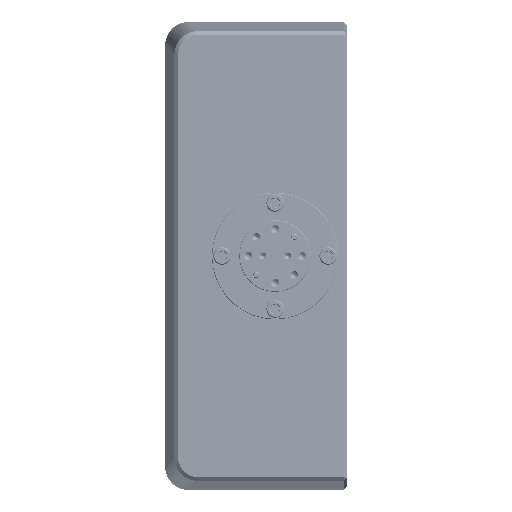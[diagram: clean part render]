
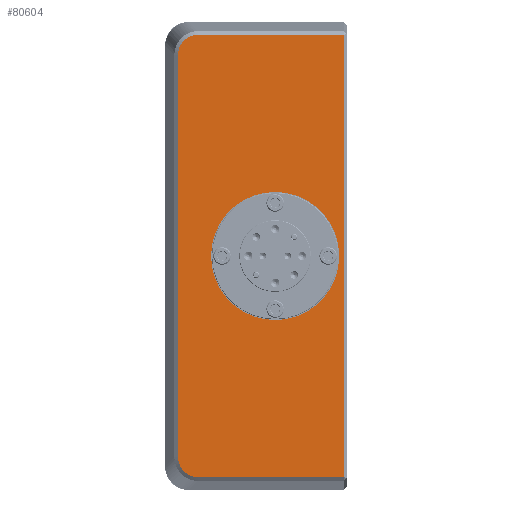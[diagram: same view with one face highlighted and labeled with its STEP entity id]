
A CAD part, left-side view. The second image highlights one B-rep face of the part: STEP entity #80604.
In plain terms, the highlighted planar face has unit normal (-1, 0, 0).
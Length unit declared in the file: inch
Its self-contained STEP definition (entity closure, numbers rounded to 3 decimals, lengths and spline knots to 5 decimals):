
#144 = CARTESIAN_POINT ( 'NONE',  ( -2.75, 4.83369, 2.2083 ) ) ;
#2162 = CIRCLE ( 'NONE', #88077, 0.67 ) ;
#5728 = VERTEX_POINT ( 'NONE', #17902 ) ;
#6769 = ORIENTED_EDGE ( 'NONE', *, *, #44424, .T. ) ;
#7069 = EDGE_LOOP ( 'NONE', ( #109122, #74257 ) ) ;
#9020 = CARTESIAN_POINT ( 'NONE',  ( -2.75, 4.04607, -2.31232 ) ) ;
#9619 = CARTESIAN_POINT ( 'NONE',  ( -2.75, 4.86115, 2.1034 ) ) ;
#10498 = CIRCLE ( 'NONE', #24885, 0.67 ) ;
#10544 = CARTESIAN_POINT ( 'NONE',  ( -2.75, 4.65223, -2.31232 ) ) ;
#11663 = CARTESIAN_POINT ( 'NONE',  ( -2.75, 4.67966, -2.31099 ) ) ;
#12776 = CARTESIAN_POINT ( 'NONE',  ( -2.75, 4.86115, -2.1034 ) ) ;
#13471 = CARTESIAN_POINT ( 'NONE',  ( -2.75, 3.84607, 0. ) ) ;
#15875 = CARTESIAN_POINT ( 'NONE',  ( -2.75, 4.81844, 2.23117 ) ) ;
#16867 = EDGE_CURVE ( 'NONE', #5728, #171015, #111135, .T. ) ;
#17902 = CARTESIAN_POINT ( 'NONE',  ( -2.75, 4.65223, -2.31232 ) ) ;
#24885 = AXIS2_PLACEMENT_3D ( 'NONE', #13471, #84218, #66259 ) ;
#29572 = DIRECTION ( 'NONE',  ( 1., 0., 0. ) ) ;
#31334 = CARTESIAN_POINT ( 'NONE',  ( -2.75, 3.12607, 0. ) ) ;
#33871 = CARTESIAN_POINT ( 'NONE',  ( -2.75, 4.04607, 2.31232 ) ) ;
#34937 = CARTESIAN_POINT ( 'NONE',  ( -2.75, 4.86115, 2.11717 ) ) ;
#35193 = DIRECTION ( 'NONE',  ( 0., 0., 1. ) ) ;
#36299 = DIRECTION ( 'NONE',  ( -1., 0., 0. ) ) ;
#37166 = DIRECTION ( 'NONE',  ( 0., 1., 0. ) ) ;
#37976 = VERTEX_POINT ( 'NONE', #9619 ) ;
#42719 = EDGE_CURVE ( 'NONE', #171015, #131053, #133450, .T. ) ;
#44424 = EDGE_CURVE ( 'NONE', #131053, #130940, #171881, .T. ) ;
#45378 = CARTESIAN_POINT ( 'NONE',  ( -2.75, 4.79057, -2.26097 ) ) ;
#51357 = ORIENTED_EDGE ( 'NONE', *, *, #98663, .T. ) ;
#61878 = VECTOR ( 'NONE', #99789, 39.37008 ) ;
#62163 = FACE_OUTER_BOUND ( 'NONE', #221961, .T. ) ;
#66259 = DIRECTION ( 'NONE',  ( 0., 0., 1. ) ) ;
#68644 = CARTESIAN_POINT ( 'NONE',  ( -2.75, 4.85052, 2.17101 ) ) ;
#72197 = CARTESIAN_POINT ( 'NONE',  ( -2.75, 3.84607, -0.67 ) ) ;
#74132 = CARTESIAN_POINT ( 'NONE',  ( -2.75, 3.12607, 2.31232 ) ) ;
#74257 = ORIENTED_EDGE ( 'NONE', *, *, #140248, .F. ) ;
#76623 = VECTOR ( 'NONE', #37166, 39.37008 ) ;
#80604 = ADVANCED_FACE ( 'NONE', ( #197969, #62163 ), #167588, .F. ) ;
#81288 = CARTESIAN_POINT ( 'NONE',  ( -2.75, 4.75712, -2.28486 ) ) ;
#83281 = CARTESIAN_POINT ( 'NONE',  ( -2.75, 4.80979, 2.24174 ) ) ;
#84218 = DIRECTION ( 'NONE',  ( -1., 0., 0. ) ) ;
#84397 = CARTESIAN_POINT ( 'NONE',  ( -2.75, 4.78, 2.26962 ) ) ;
#86369 = ORIENTED_EDGE ( 'NONE', *, *, #16867, .T. ) ;
#88077 = AXIS2_PLACEMENT_3D ( 'NONE', #118275, #36299, #35193 ) ;
#89852 = EDGE_CURVE ( 'NONE', #37976, #207227, #183697, .T. ) ;
#89879 = CARTESIAN_POINT ( 'NONE',  ( -2.75, 3.12607, -2.31232 ) ) ;
#92454 = ORIENTED_EDGE ( 'NONE', *, *, #42719, .T. ) ;
#95464 = DIRECTION ( 'NONE',  ( 0., -1., 0. ) ) ;
#95868 = CARTESIAN_POINT ( 'NONE',  ( -2.75, 4.85446, -2.1579 ) ) ;
#96962 = CARTESIAN_POINT ( 'NONE',  ( -2.75, 4.86115, -2.11713 ) ) ;
#98663 = EDGE_CURVE ( 'NONE', #207227, #5728, #141367, .T. ) ;
#99789 = DIRECTION ( 'NONE',  ( 0., 0., 1. ) ) ;
#101186 = CARTESIAN_POINT ( 'NONE',  ( -2.75, 4.67964, 2.31098 ) ) ;
#103393 = CARTESIAN_POINT ( 'NONE',  ( -2.75, 4.86115, 2.1034 ) ) ;
#109122 = ORIENTED_EDGE ( 'NONE', *, *, #218152, .F. ) ;
#111135 = LINE ( 'NONE', #9020, #130205 ) ;
#113784 = CARTESIAN_POINT ( 'NONE',  ( -2.75, 4.78, -2.26962 ) ) ;
#115753 = CARTESIAN_POINT ( 'NONE',  ( -2.75, 4.65223, 2.31232 ) ) ;
#116005 = CARTESIAN_POINT ( 'NONE',  ( -2.75, 4.71984, -2.30169 ) ) ;
#116894 = CARTESIAN_POINT ( 'NONE',  ( -2.75, 4.71985, 2.30168 ) ) ;
#118275 = CARTESIAN_POINT ( 'NONE',  ( -2.75, 3.84607, 0. ) ) ;
#120233 = CARTESIAN_POINT ( 'NONE',  ( -2.75, 4.85446, 2.15793 ) ) ;
#125655 = AXIS2_PLACEMENT_3D ( 'NONE', #215899, #29572, #182213 ) ;
#128530 = VERTEX_POINT ( 'NONE', #191231 ) ;
#130205 = VECTOR ( 'NONE', #95464, 39.37008 ) ;
#130708 = ORIENTED_EDGE ( 'NONE', *, *, #205791, .T. ) ;
#130940 = VERTEX_POINT ( 'NONE', #115753 ) ;
#130982 = CARTESIAN_POINT ( 'NONE',  ( -2.75, 4.86115, 0. ) ) ;
#131053 = VERTEX_POINT ( 'NONE', #74132 ) ;
#132829 = CARTESIAN_POINT ( 'NONE',  ( -2.75, 4.84013, -2.19623 ) ) ;
#133450 = LINE ( 'NONE', #31334, #61878 ) ;
#140248 = EDGE_CURVE ( 'NONE', #143157, #128530, #10498, .T. ) ;
#141367 = B_SPLINE_CURVE_WITH_KNOTS ( 'NONE', 3,
 ( #12776, #96962, #184493, #95868, #183372, #132829, #206604, #199154, #185592, #45378, #113784, #81288, #201333, #116005, #182264, #11663, #218156, #10544 ),
 .UNSPECIFIED., .F., .F.,
 ( 4, 2, 2, 2, 2, 2, 2, 2, 4 ),
 ( 0., 0.125, 0.25, 0.375, 0.5, 0.625, 0.75, 0.875, 1. ),
 .UNSPECIFIED. ) ;
#143157 = VERTEX_POINT ( 'NONE', #72197 ) ;
#147107 = VECTOR ( 'NONE', #184821, 39.37008 ) ;
#153926 = CARTESIAN_POINT ( 'NONE',  ( -2.75, 4.65223, 2.31232 ) ) ;
#161604 = ORIENTED_EDGE ( 'NONE', *, *, #89852, .T. ) ;
#167588 = PLANE ( 'NONE',  #125655 ) ;
#168531 = CARTESIAN_POINT ( 'NONE',  ( -2.75, 4.79056, 2.26096 ) ) ;
#169638 = CARTESIAN_POINT ( 'NONE',  ( -2.75, 4.74506, 2.2913 ) ) ;
#171015 = VERTEX_POINT ( 'NONE', #89879 ) ;
#171843 = CARTESIAN_POINT ( 'NONE',  ( -2.75, 4.84012, 2.19624 ) ) ;
#171881 = LINE ( 'NONE', #33871, #76623 ) ;
#178800 = B_SPLINE_CURVE_WITH_KNOTS ( 'NONE', 3,
 ( #153926, #221270, #101186, #219045, #116894, #169638, #202238, #84397, #168531, #83281, #15875, #144, #171843, #68644, #120233, #205556, #34937, #103393 ),
 .UNSPECIFIED., .F., .F.,
 ( 4, 2, 2, 2, 2, 2, 2, 2, 4 ),
 ( 0., 0.125, 0.25, 0.375, 0.5, 0.625, 0.75, 0.875, 1. ),
 .UNSPECIFIED. ) ;
#182213 = DIRECTION ( 'NONE',  ( 0., 1., 0. ) ) ;
#182264 = CARTESIAN_POINT ( 'NONE',  ( -2.75, 4.70676, -2.30563 ) ) ;
#183372 = CARTESIAN_POINT ( 'NONE',  ( -2.75, 4.85051, -2.17102 ) ) ;
#183697 = LINE ( 'NONE', #130982, #147107 ) ;
#184493 = CARTESIAN_POINT ( 'NONE',  ( -2.75, 4.8598, -2.13082 ) ) ;
#184821 = DIRECTION ( 'NONE',  ( 0., 0., -1. ) ) ;
#185592 = CARTESIAN_POINT ( 'NONE',  ( -2.75, 4.80979, -2.24174 ) ) ;
#191231 = CARTESIAN_POINT ( 'NONE',  ( -2.75, 3.84607, 0.67 ) ) ;
#197969 = FACE_BOUND ( 'NONE', #7069, .T. ) ;
#199154 = CARTESIAN_POINT ( 'NONE',  ( -2.75, 4.81844, -2.23117 ) ) ;
#201333 = CARTESIAN_POINT ( 'NONE',  ( -2.75, 4.74507, -2.29129 ) ) ;
#202238 = CARTESIAN_POINT ( 'NONE',  ( -2.75, 4.75712, 2.28486 ) ) ;
#205556 = CARTESIAN_POINT ( 'NONE',  ( -2.75, 4.85981, 2.13083 ) ) ;
#205791 = EDGE_CURVE ( 'NONE', #130940, #37976, #178800, .T. ) ;
#206604 = CARTESIAN_POINT ( 'NONE',  ( -2.75, 4.83369, -2.20829 ) ) ;
#207227 = VERTEX_POINT ( 'NONE', #215512 ) ;
#215512 = CARTESIAN_POINT ( 'NONE',  ( -2.75, 4.86115, -2.1034 ) ) ;
#215899 = CARTESIAN_POINT ( 'NONE',  ( -2.75, 4.04607, 0. ) ) ;
#218152 = EDGE_CURVE ( 'NONE', #128530, #143157, #2162, .T. ) ;
#218156 = CARTESIAN_POINT ( 'NONE',  ( -2.75, 4.666, -2.31232 ) ) ;
#219045 = CARTESIAN_POINT ( 'NONE',  ( -2.75, 4.70673, 2.30563 ) ) ;
#221270 = CARTESIAN_POINT ( 'NONE',  ( -2.75, 4.66596, 2.31232 ) ) ;
#221961 = EDGE_LOOP ( 'NONE', ( #51357, #86369, #92454, #6769, #130708, #161604 ) ) ;
